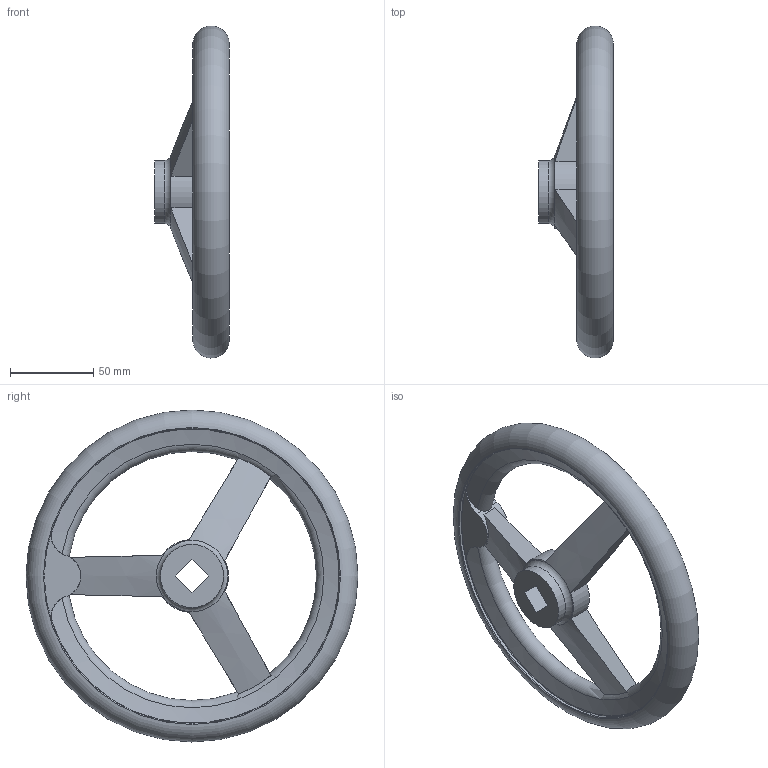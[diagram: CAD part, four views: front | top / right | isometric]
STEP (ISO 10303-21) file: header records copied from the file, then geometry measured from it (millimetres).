
FILE_DESCRIPTION( ( 'STEP AP203' ), '1' );
FILE_NAME( 'C:/Temp/Ganter_Step_05_03_2020/data/1_3/din_950/din_950_v/din_950_v_a/Handwheel DIN 950-AL-200-V14-A.stp', '2020-03-05T10:31:33', ( 'License CC BY-ND 4.0' ), ( 'CADENAS' ), ' ', 'PARTsolutions', ' ' );
FILE_SCHEMA( ( 'CONFIG_CONTROL_DESIGN' ) );
Length unit declared in the file: millimetre
Products named in the file (1): _Handwheel DIN 950-AL-200-V14-A
Bounding box: 45 x 200 x 200 mm (x, y, z)
Volume: 277733 mm3; surface area: 59109.2 mm2
Topology: 1 solids, 1 shells, 44 faces, 125 edges, 80 vertices
Faces by surface type: torus 14, plane 14, cylinder 12, cone 4
Full cylindrical faces by diameter (mm): 38 x2, 178 x2
Entity records: 1799 total; most frequent: CARTESIAN_POINT 725, ORIENTED_EDGE 216, DIRECTION 194, EDGE_CURVE 108, AXIS2_PLACEMENT_3D 85, VERTEX_POINT 77, EDGE_LOOP 62, FACE_OUTER_BOUND 55
